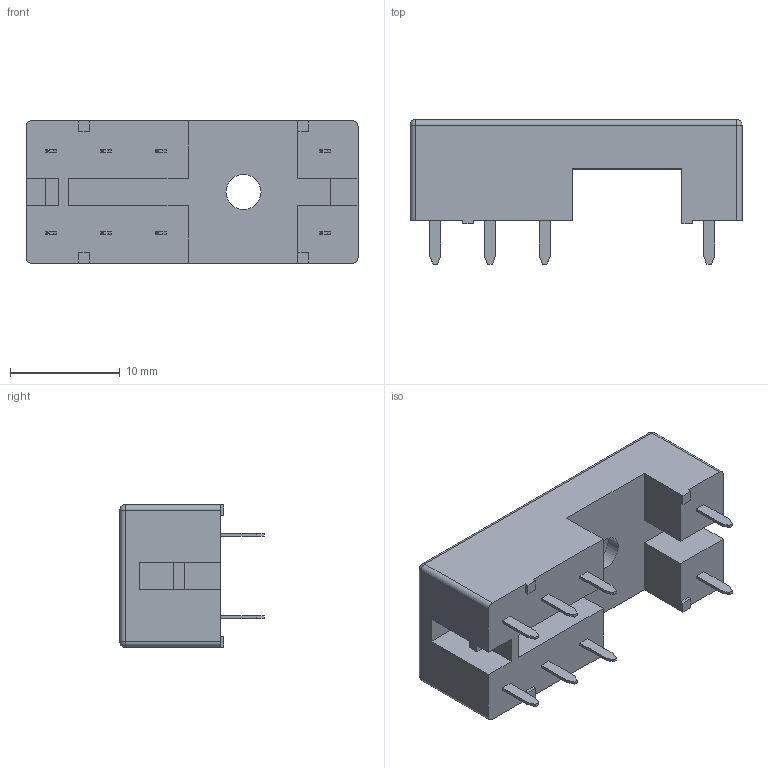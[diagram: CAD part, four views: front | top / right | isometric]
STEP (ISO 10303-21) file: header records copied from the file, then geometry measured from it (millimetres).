
FILE_DESCRIPTION(/* description */ (''),/* implementation_level */ '2;1');
FILE_NAME(/* name */ 'D:\Lavoro MARCO\Catalogo Finder\95.15.2\95.15.2.stp',/* time_stamp */ '2021-04-13T12:34:32+02:00',/* author */ ('marco'),/* organization */ (''),/* preprocessor_version */ 'ST-DEVELOPER v17',/* originating_system */ 'Autodesk Inventor 2019',/* authorisation */ '');
FILE_SCHEMA (('AUTOMOTIVE_DESIGN { 1 0 10303 214 3 1 1 }'));
Length unit declared in the file: millimetre
Products named in the file (1): 95.13.2
Bounding box: 30.3 x 13.2 x 13 mm (x, y, z)
Volume: 2587.3 mm3; surface area: 2246.1 mm2
Topology: 1 solids, 1 shells, 174 faces, 456 edges, 298 vertices
Faces by surface type: plane 160, cylinder 10, sphere 4
Full cylindrical faces by diameter (mm): 3.2 x1, 5.6 x1
Entity records: 5324 total; most frequent: CARTESIAN_POINT 925, ORIENTED_EDGE 904, DIRECTION 824, EDGE_CURVE 452, LINE 430, VECTOR 430, VERTEX_POINT 298, AXIS2_PLACEMENT_3D 197
